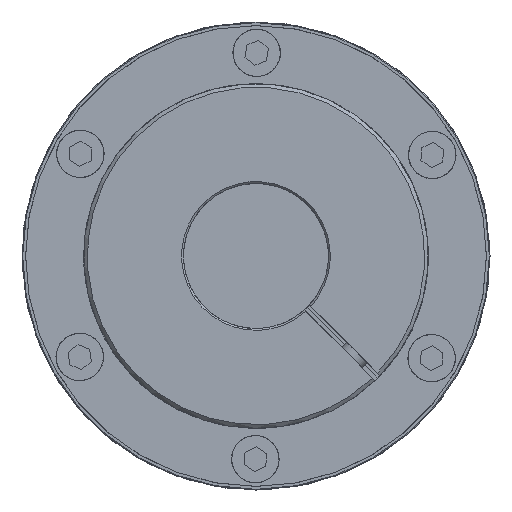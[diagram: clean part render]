
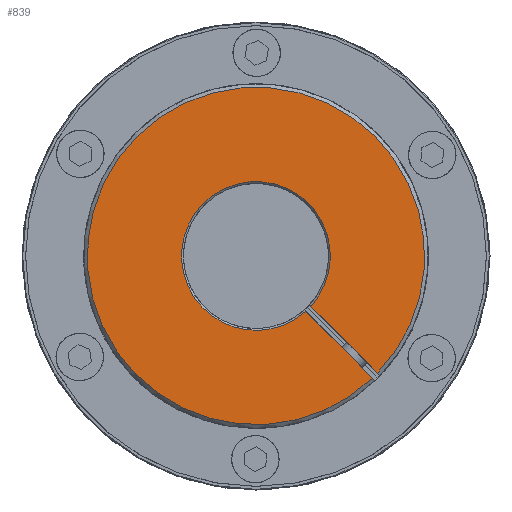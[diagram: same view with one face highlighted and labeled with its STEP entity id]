
A CAD part, left-side view. The second image highlights one B-rep face of the part: STEP entity #839.
In plain terms, the highlighted planar face has unit normal (-1, 0, 0).
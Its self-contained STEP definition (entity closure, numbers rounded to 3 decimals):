
#839 = ADVANCED_FACE( '', ( #1759 ), #1760, .T. );
#1759 = FACE_OUTER_BOUND( '', #2708, .T. );
#1760 = PLANE( '', #2709 );
#2708 = EDGE_LOOP( '', ( #4837, #4838, #4839, #4840 ) );
#2709 = AXIS2_PLACEMENT_3D( '', #4841, #4842, #4843 );
#4837 = ORIENTED_EDGE( '', *, *, #5929, .T. );
#4838 = ORIENTED_EDGE( '', *, *, #5938, .T. );
#4839 = ORIENTED_EDGE( '', *, *, #5946, .T. );
#4840 = ORIENTED_EDGE( '', *, *, #5931, .T. );
#4841 = CARTESIAN_POINT( '', ( -73.5, 0., 0. ) );
#4842 = DIRECTION( '', ( -1., 0., 0. ) );
#4843 = DIRECTION( '', ( 0., 0., 1. ) );
#5929 = EDGE_CURVE( '', #7035, #7033, #7036, .F. );
#5931 = EDGE_CURVE( '', #7038, #7035, #7039, .T. );
#5938 = EDGE_CURVE( '', #7033, #7048, #7050, .T. );
#5946 = EDGE_CURVE( '', #7048, #7038, #7061, .T. );
#7033 = VERTEX_POINT( '', #9011 );
#7035 = VERTEX_POINT( '', #9016 );
#7036 = CIRCLE( '', #9017, 20.5 );
#7038 = VERTEX_POINT( '', #9022 );
#7039 = LINE( '', #9023, #9024 );
#7048 = VERTEX_POINT( '', #9039 );
#7050 = LINE( '', #9044, #9045 );
#7061 = CIRCLE( '', #9058, 46.5 );
#9011 = CARTESIAN_POINT( '', ( -73.5, -20.476, 1. ) );
#9016 = CARTESIAN_POINT( '', ( -73.5, -20.476, -1. ) );
#9017 = AXIS2_PLACEMENT_3D( '', #10589, #10590, #10591 );
#9022 = CARTESIAN_POINT( '', ( -73.5, -46.489, -1. ) );
#9023 = CARTESIAN_POINT( '', ( -73.5, 0., -1. ) );
#9024 = VECTOR( '', #10592, 1000. );
#9039 = CARTESIAN_POINT( '', ( -73.5, -46.489, 1. ) );
#9044 = CARTESIAN_POINT( '', ( -73.5, 0., 1. ) );
#9045 = VECTOR( '', #10599, 1000. );
#9058 = AXIS2_PLACEMENT_3D( '', #10617, #10618, #10619 );
#10589 = CARTESIAN_POINT( '', ( -73.5, 0., 0. ) );
#10590 = DIRECTION( '', ( -1., 0., 0. ) );
#10591 = DIRECTION( '', ( 0., -1., 0. ) );
#10592 = DIRECTION( '', ( 0., 1., 0. ) );
#10599 = DIRECTION( '', ( 0., -1., 0. ) );
#10617 = CARTESIAN_POINT( '', ( -73.5, 0., 0. ) );
#10618 = DIRECTION( '', ( -1., 0., 0. ) );
#10619 = DIRECTION( '', ( 0., -1., 0. ) );
